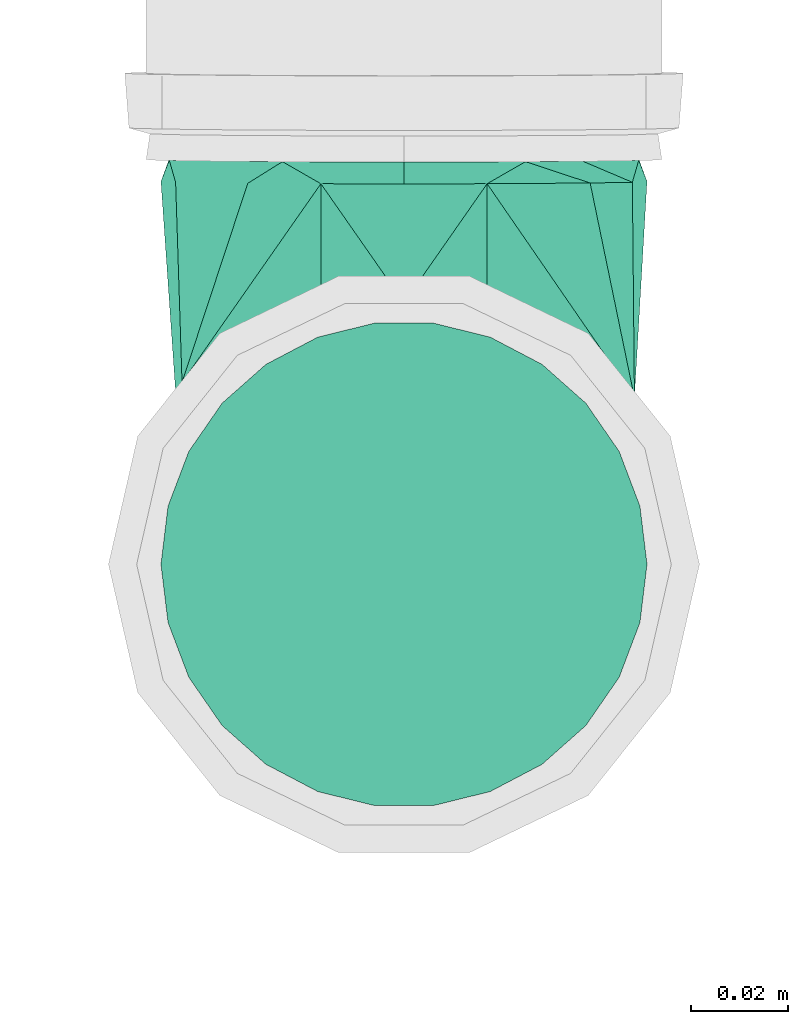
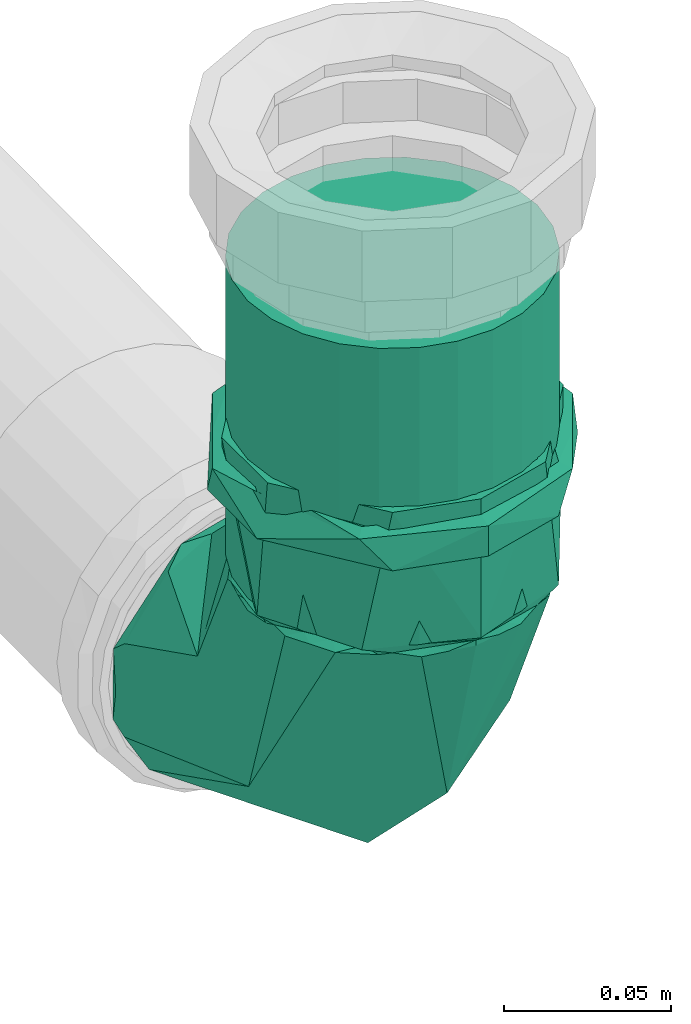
# One storey, part 211 of 589: 1 flow fitting, 1 flow segment.
"""IFC2X3 building model written with IfcOpenShell, lengths in millimetres."""

from ifc_helpers import new_model, entity, si_unit, converted_unit, derived_unit, direction, frame, frame_2d, origin, place, context, subcontext, project, spatial, circle, extrude, faceted_brep, source, transform, mapped, material, type_object, type_shapes, element, save


model = new_model("IFC2X3")

# Units and contexts
model_context = context("Model", 3, precision=0.01, world=origin(), true_north=direction((6.123031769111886e-17, 1.0)))
body_context = subcontext(model_context, "Body", "Model", "MODEL_VIEW")
ifc_project = project(units=[si_unit("LENGTHUNIT", "METRE", prefix="MILLI"), si_unit("AREAUNIT", "SQUARE_METRE"), si_unit("VOLUMEUNIT", "CUBIC_METRE"), converted_unit("PLANEANGLEUNIT", "DEGREE", entity("IfcRatioMeasure", 0.017453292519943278), si_unit("PLANEANGLEUNIT", "RADIAN"), dimensions=[0, 0, 0, 0, 0, 0, 0]), si_unit("MASSUNIT", "GRAM", prefix="KILO"), derived_unit("MASSDENSITYUNIT", [(si_unit("MASSUNIT", "GRAM", prefix="KILO"), 1), (si_unit("LENGTHUNIT", "METRE"), -3)]), derived_unit("IONCONCENTRATIONUNIT", [(si_unit("MASSUNIT", "GRAM", prefix="KILO"), 1), (si_unit("LENGTHUNIT", "METRE"), -3)]), derived_unit("MOMENTOFINERTIAUNIT", [(si_unit("LENGTHUNIT", "METRE"), 4)]), si_unit("TIMEUNIT", "SECOND"), si_unit("FREQUENCYUNIT", "HERTZ"), si_unit("THERMODYNAMICTEMPERATUREUNIT", "DEGREE_CELSIUS"), derived_unit("THERMALTRANSMITTANCEUNIT", [(si_unit("MASSUNIT", "GRAM", prefix="KILO"), 1), (si_unit("THERMODYNAMICTEMPERATUREUNIT", "KELVIN"), -1), (si_unit("TIMEUNIT", "SECOND"), -3)]), derived_unit("THERMALCONDUCTANCEUNIT", [(si_unit("MASSUNIT", "GRAM", prefix="KILO"), 1), (si_unit("THERMODYNAMICTEMPERATUREUNIT", "KELVIN"), -1), (si_unit("TIMEUNIT", "SECOND"), -3), (si_unit("LENGTHUNIT", "METRE"), 1)]), derived_unit("VOLUMETRICFLOWRATEUNIT", [(si_unit("LENGTHUNIT", "METRE"), 3), (si_unit("TIMEUNIT", "SECOND"), -1)]), derived_unit("MASSFLOWRATEUNIT", [(si_unit("MASSUNIT", "GRAM", prefix="KILO"), 1), (si_unit("TIMEUNIT", "SECOND"), -1)]), derived_unit("ROTATIONALFREQUENCYUNIT", [(si_unit("TIMEUNIT", "SECOND"), -1)]), si_unit("ELECTRICCURRENTUNIT", "AMPERE"), si_unit("ELECTRICVOLTAGEUNIT", "VOLT"), si_unit("POWERUNIT", "WATT"), si_unit("FORCEUNIT", "NEWTON", prefix="KILO"), si_unit("ILLUMINANCEUNIT", "LUX"), si_unit("LUMINOUSFLUXUNIT", "LUMEN"), si_unit("LUMINOUSINTENSITYUNIT", "CANDELA"), derived_unit("USERDEFINED", [(si_unit("MASSUNIT", "GRAM", prefix="KILO"), -1), (si_unit("LENGTHUNIT", "METRE"), -2), (si_unit("TIMEUNIT", "SECOND"), 3), (si_unit("LUMINOUSFLUXUNIT", "LUMEN"), 1)]), derived_unit("USERDEFINED", [(si_unit("MASSUNIT", "GRAM", prefix="KILO"), 1), (si_unit("TIMEUNIT", "SECOND"), -3), (si_unit("LENGTHUNIT", "METRE"), 3), (si_unit("ELECTRICCURRENTUNIT", "AMPERE"), -2)]), derived_unit("SOUNDPOWERUNIT", [(si_unit("MASSUNIT", "GRAM", prefix="KILO"), 1), (si_unit("TIMEUNIT", "SECOND"), -3), (si_unit("LENGTHUNIT", "METRE"), 2)]), derived_unit("SOUNDPRESSUREUNIT", [(si_unit("MASSUNIT", "GRAM", prefix="KILO"), 1), (si_unit("LENGTHUNIT", "METRE"), -1), (si_unit("TIMEUNIT", "SECOND"), -2)]), derived_unit("LINEARVELOCITYUNIT", [(si_unit("LENGTHUNIT", "METRE"), 1), (si_unit("TIMEUNIT", "SECOND"), -1)]), si_unit("PRESSUREUNIT", "PASCAL"), derived_unit("USERDEFINED", [(si_unit("MASSUNIT", "GRAM", prefix="KILO"), 1), (si_unit("LENGTHUNIT", "METRE"), -2), (si_unit("TIMEUNIT", "SECOND"), -2)]), derived_unit("LINEARFORCEUNIT", [(si_unit("MASSUNIT", "GRAM", prefix="KILO"), 1), (si_unit("TIMEUNIT", "SECOND"), -2)]), derived_unit("PLANARFORCEUNIT", [(si_unit("MASSUNIT", "GRAM", prefix="KILO"), 1), (si_unit("LENGTHUNIT", "METRE"), -1), (si_unit("TIMEUNIT", "SECOND"), -2)]), derived_unit("SPECIFICHEATCAPACITYUNIT", [(si_unit("THERMODYNAMICTEMPERATUREUNIT", "KELVIN"), -1), (si_unit("LENGTHUNIT", "METRE"), 2), (si_unit("TIMEUNIT", "SECOND"), -2)]), derived_unit("HEATINGVALUEUNIT", [(si_unit("LENGTHUNIT", "METRE"), 2), (si_unit("TIMEUNIT", "SECOND"), -2)]), derived_unit("VAPORPERMEABILITYUNIT", [(si_unit("LENGTHUNIT", "METRE"), -1), (si_unit("TIMEUNIT", "SECOND"), 1)]), derived_unit("DYNAMICVISCOSITYUNIT", [(si_unit("MASSUNIT", "GRAM", prefix="KILO"), 1), (si_unit("TIMEUNIT", "SECOND"), -1), (si_unit("LENGTHUNIT", "METRE"), -1)]), derived_unit("THERMALEXPANSIONCOEFFICIENTUNIT", [(si_unit("THERMODYNAMICTEMPERATUREUNIT", "KELVIN"), -1)]), derived_unit("MODULUSOFELASTICITYUNIT", [(si_unit("MASSUNIT", "GRAM", prefix="KILO"), 1), (si_unit("LENGTHUNIT", "METRE"), -1), (si_unit("TIMEUNIT", "SECOND"), -2)]), derived_unit("ISOTHERMALMOISTURECAPACITYUNIT", [(si_unit("LENGTHUNIT", "METRE"), 3), (si_unit("MASSUNIT", "GRAM", prefix="KILO"), -1)]), derived_unit("MOISTUREDIFFUSIVITYUNIT", [(si_unit("TIMEUNIT", "SECOND"), -1), (si_unit("LENGTHUNIT", "METRE"), 2)])], contexts=[model_context])

# Site, building, storey
site_placement = place(None, origin())
site = spatial("IfcSite", under=ifc_project, at=site_placement, Name="Default", CompositionType="ELEMENT")
building_placement = place(site_placement, origin())
building = spatial("IfcBuilding", under=site, at=building_placement, CompositionType="ELEMENT")
storey_placement = place(building_placement, frame((0.0, 0.0, 100.0)))
storey = spatial("IfcBuildingStorey", under=building, at=storey_placement, Name="TÉRREO", CompositionType="ELEMENT", Elevation=100.0)

# Flow segment
pipe_segment_type = type_object("IfcPipeSegmentType", Name="Tipos de tubos:PVC Esgoto Série Normal", PredefinedType="NOTDEFINED")
flow_segment_placement = place(storey_placement, origin())
element("IfcFlowSegment", 1, at=flow_segment_placement, inside=storey, type_object=pipe_segment_type, Name="Tipos de tubos:PVC Esgoto Série Normal", ObjectType="Tipos de tubos:PVC Esgoto Série Normal", context=body_context, shape_type="SweptSolid", body=[
    extrude(circle(Radius=50.0, at=frame_2d((0.0, -3.383959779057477e-14), x_axis=(1.0, 0.0))), frame((10615.99777647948, -135.7585524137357, -158.4176923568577)), (0.0, 0.0, 1.0), 108.41769235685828),
])

# Flow fitting
ifc_material = material(Name="PVC Branco")
pipe_fitting_type = type_object("IfcPipeFittingType", Name="PVC Esgoto_Curva 90° Curta:a. Série Normal", PredefinedType="NOTDEFINED", material=ifc_material)
shared_shape = source(origin(), body_context, "Body", "Brep", [
    faceted_brep([(-13.77310261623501, 83.150332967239, 48.29629131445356), (12.107507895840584, 83.40913907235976, 48.296291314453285), (27.28690791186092, 83.56093307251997, 36.64814565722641), (42.466307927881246, 83.71272707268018, 25.0), (49.16470282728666, 83.77971102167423, 0.0), (42.46630792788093, 83.71272707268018, -25.0), (27.286907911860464, 83.56093307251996, -36.64814565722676), (12.107507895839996, 83.40913907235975, -48.29629131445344), (-13.773102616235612, 83.150332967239, -48.2962913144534), (-28.95250263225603, 82.99853896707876, -36.64814565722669), (-44.131902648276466, 82.84674496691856, -25.0), (-50.83029754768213, 82.7797610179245, 0.0), (-44.131902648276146, 82.84674496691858, 25.0), (-28.952502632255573, 82.99853896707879, 36.64814565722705), (46.19447148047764, 79.24978371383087, 17.1010370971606), (16.31224781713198, 78.9509614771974, 46.9846691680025), (-17.887847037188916, 78.60896052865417, 46.98466916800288), (49.209700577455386, 79.27993600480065, 0.0), (37.5124666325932, 79.16296366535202, 32.139429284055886), (-32.92551224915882, 78.45858387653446, 38.30227334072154), (-0.7877996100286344, 78.77996100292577, 50.0), (-47.77007070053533, 78.31013829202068, 17.10103709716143), (-50.78529979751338, 78.2799860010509, 0.0), (-47.77007070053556, 78.31013829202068, -17.10103709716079), (-17.88784703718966, 78.60896052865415, -46.98466916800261), (16.312247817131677, 78.9509614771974, -46.98466916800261), (-39.08806585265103, 78.39695834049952, -32.1394292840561), (31.34991302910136, 79.1013381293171, -38.302273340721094), (-0.7877996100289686, 78.77996100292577, -50.0), (46.194471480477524, 79.24978371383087, -17.10103709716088), (-7.975140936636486, 7.895786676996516, 45.073651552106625), (-78.78389990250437, -17.100902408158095, 46.98466916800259), (-78.7838999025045, -27.701541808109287, 39.562049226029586), (-78.78389990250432, -38.302181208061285, 32.139429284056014), (-14.414764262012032, -32.63731005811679, 0.0), (-78.78389990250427, -46.984620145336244, 17.101037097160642), (-78.78389990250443, -48.49231007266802, 8.55051854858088), (-78.78389990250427, -50.0, 0.0), (-78.78389990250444, -42.64340067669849, 24.620233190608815), (-78.78389990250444, 0.0, 50.0), (-78.78389990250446, -8.550451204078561, 48.492334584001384), (32.49153787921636, 14.740400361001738, 0.0), (-34.6369786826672, 34.29234046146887, 47.412359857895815), (-78.78389990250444, 17.100902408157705, 46.98466916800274), (-78.78389990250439, 8.550451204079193, 48.49233458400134), (-78.78389990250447, 32.13931948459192, 38.302273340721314), (-78.78389990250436, 24.620110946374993, 42.64347125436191), (-78.78389990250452, 46.98462014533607, 17.101037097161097), (-78.78389990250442, 39.56196981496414, 27.701655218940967), (-64.70315148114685, 53.79808842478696, 0.0), (-78.78389990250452, 50.0, 0.0), (-78.78389990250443, 48.492310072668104, 8.550518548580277), (-37.82579928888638, 37.449427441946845, -45.66519222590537), (-78.78389990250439, 0.0, -50.0), (-78.78389990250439, 8.55045120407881, -48.49233458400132), (-78.78389990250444, 17.10090240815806, -46.984669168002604), (-7.975138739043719, 7.895784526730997, -45.07365007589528), (-78.78389990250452, 46.98462014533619, -17.101037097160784), (-78.78389990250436, 27.701541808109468, -39.562049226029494), (-78.7838999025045, 38.30218120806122, -32.139429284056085), (-78.78389990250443, -48.492310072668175, -8.550518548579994), (-78.78389990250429, -46.984620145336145, -17.1010370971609), (-78.78389990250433, -32.13931948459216, -38.302273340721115), (-78.7838999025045, -24.620110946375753, -42.6434712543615), (-78.78389990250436, -17.100902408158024, -46.98466916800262), (-78.78389990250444, -39.56196981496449, -27.70165521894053), (-78.78389990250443, 48.49231007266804, -8.550518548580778), (-78.78389990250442, 42.64340067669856, -24.620233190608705), (-78.78389990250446, -8.550451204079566, -48.49233458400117), (-80.78389990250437, 50.0, 0.0), (-80.78389990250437, 46.65063509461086, -12.500000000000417), (-80.78389990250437, 43.30127018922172, -25.0), (-80.78389990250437, 35.711190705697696, -30.82407282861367), (-80.78389990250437, 28.121111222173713, -36.64814565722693), (-80.78389990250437, 20.53103173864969, -42.47221848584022), (-80.78389990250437, 12.940952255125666, -48.29629131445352), (-80.78389990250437, 0.0, -48.29629131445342), (-80.78389990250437, -12.940952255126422, -48.29629131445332), (-80.78389990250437, -20.531031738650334, -42.47221848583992), (-80.78389990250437, -28.121111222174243, -36.64814565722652), (-80.78389990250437, -35.7111907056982, -30.824072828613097), (-80.78389990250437, -43.30127018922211, -25.0), (-80.78389990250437, -46.650635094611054, -12.499999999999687), (-80.78389990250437, -50.0, 0.0), (-80.78389990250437, -46.65063509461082, 12.500000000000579), (-80.78389990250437, -43.30127018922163, 25.0), (-80.78389990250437, -35.71119070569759, 30.82407282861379), (-80.78389990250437, -28.12111122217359, 36.648145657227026), (-80.78389990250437, -20.531031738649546, 42.47221848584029), (-80.78389990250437, -12.940952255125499, 48.29629131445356), (-80.78389990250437, 0.0, 48.29629131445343), (-80.78389990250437, 12.940952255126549, 48.296291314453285), (-80.78389990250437, 20.531031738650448, 42.47221848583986), (-80.78389990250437, 28.121111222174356, 36.648145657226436), (-80.78389990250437, 35.711190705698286, 30.824072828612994), (-80.78389990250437, 43.30127018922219, 25.0), (-80.78389990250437, 46.65063509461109, 12.499999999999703)], [[[0, 1, 2, 3, 4, 5, 6, 7, 8, 9, 10, 11, 12, 13]], [[14, 4, 3]], [[1, 15, 2]], [[13, 16, 0]], [[17, 4, 14]], [[18, 14, 3]], [[2, 15, 18]], [[13, 12, 19]], [[1, 20, 15]], [[18, 3, 2]], [[12, 21, 19]], [[12, 11, 21]], [[22, 21, 11]], [[20, 0, 16]], [[16, 13, 19]], [[0, 20, 1]], [[23, 11, 10]], [[8, 24, 9]], [[6, 25, 7]], [[22, 11, 23]], [[26, 23, 10]], [[9, 24, 26]], [[6, 5, 27]], [[8, 28, 24]], [[26, 10, 9]], [[5, 29, 27]], [[5, 4, 29]], [[17, 29, 4]], [[28, 7, 25]], [[25, 6, 27]], [[7, 28, 8]], [[30, 31, 32, 33]], [[34, 35, 36, 37]], [[34, 30, 33]], [[34, 33, 38, 35]], [[30, 39, 40, 31]], [[41, 30, 34]], [[42, 43, 44, 39]], [[20, 42, 30]], [[30, 42, 39]], [[42, 45, 46, 43]], [[42, 47, 48, 45]], [[49, 50, 51, 47]], [[20, 30, 15]], [[20, 16, 42]], [[30, 18, 15]], [[14, 18, 41]], [[17, 14, 41]], [[49, 21, 22]], [[49, 47, 21]], [[47, 42, 21]], [[42, 19, 21]], [[42, 16, 19]], [[30, 41, 18]], [[52, 53, 54, 55]], [[34, 56, 41]], [[52, 24, 28]], [[52, 57, 23]], [[52, 55, 58, 59]], [[56, 53, 52]], [[34, 37, 60, 61]], [[56, 62, 63, 64]], [[62, 56, 34]], [[34, 61, 65, 62]], [[49, 57, 66, 50]], [[49, 22, 23]], [[27, 56, 25]], [[52, 59, 67, 57]], [[52, 26, 24]], [[52, 23, 26]], [[52, 28, 56]], [[56, 64, 68, 53]], [[28, 25, 56]], [[56, 27, 41]], [[29, 17, 41]], [[29, 41, 27]], [[49, 23, 57]], [[69, 70, 71, 72, 73, 74, 75, 76, 77, 78, 79, 80, 81, 82, 83, 84, 85, 86, 87, 88, 89, 90, 91, 92, 93, 94, 95, 96]], [[51, 50, 69]], [[31, 89, 88]], [[92, 43, 46]], [[46, 45, 93]], [[31, 88, 32]], [[93, 92, 46]], [[96, 95, 47]], [[94, 93, 45]], [[85, 84, 35]], [[69, 96, 51]], [[90, 44, 91]], [[89, 40, 90]], [[33, 87, 86, 85]], [[85, 35, 38, 33]], [[89, 31, 40]], [[83, 36, 84]], [[45, 48, 94]], [[40, 39, 90]], [[44, 43, 91]], [[32, 88, 87]], [[48, 47, 95]], [[87, 33, 32]], [[44, 90, 39]], [[96, 47, 51]], [[92, 91, 43]], [[48, 95, 94]], [[36, 83, 37]], [[36, 35, 84]], [[60, 37, 83]], [[55, 75, 74]], [[78, 64, 63]], [[63, 62, 79]], [[55, 74, 58]], [[79, 78, 63]], [[82, 81, 61]], [[80, 79, 62]], [[71, 70, 57]], [[83, 82, 60]], [[76, 68, 77]], [[75, 54, 76]], [[59, 73, 72, 71]], [[71, 57, 67, 59]], [[75, 55, 54]], [[69, 66, 70]], [[62, 65, 80]], [[54, 53, 76]], [[68, 64, 77]], [[58, 74, 73]], [[65, 61, 81]], [[73, 59, 58]], [[68, 76, 53]], [[82, 61, 60]], [[78, 77, 64]], [[65, 81, 80]], [[66, 69, 50]], [[66, 57, 70]]]),
    faceted_brep([(-115.78389990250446, 13.678586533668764, -51.04917991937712), (-115.78389990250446, -13.678586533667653, -51.04917991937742), (-115.78389990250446, -14.83033128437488, -55.3475498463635), (-115.78389990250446, 14.830331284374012, -55.347549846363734), (-115.78389990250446, 45.76944259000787, -26.42499999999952), (-115.78389990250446, -49.62325563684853, -28.64999999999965), (-115.78389990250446, -45.769442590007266, -26.425000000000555), (-115.78389990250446, -52.85000000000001, 0.0), (-115.78389990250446, -57.300000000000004, 0.0), (-115.78389990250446, -45.76944259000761, 26.424999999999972), (-115.78389990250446, -49.62325563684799, 28.6500000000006), (-115.78389990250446, -13.67858653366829, 51.04917991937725), (-115.78389990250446, -14.830331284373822, 55.34754984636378), (-115.78389990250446, 13.678586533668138, 51.049179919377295), (-115.78389990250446, 14.830331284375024, 55.34754984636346), (-115.78389990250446, 45.76944259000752, 26.42500000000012), (-115.78389990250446, 49.62325563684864, 28.64999999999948), (-115.78389990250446, 57.300000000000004, 0.0), (-115.78389990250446, 52.85000000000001, 0.0), (-115.78389990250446, 49.62325563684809, -28.65000000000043), (-126.78389990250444, 57.300000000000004, 0.0), (-126.78389990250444, 50.59641416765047, 18.416769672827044), (-126.78389990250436, 43.89282833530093, 36.833539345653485), (-126.78389990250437, 16.96848634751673, 46.63099896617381), (-126.78389990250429, -9.955855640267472, 56.42845858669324), (-126.78389990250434, -26.927757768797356, 46.62692777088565), (-126.78389990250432, -43.89965989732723, 36.82539695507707), (-126.78389990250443, -51.65442122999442, 15.514582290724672), (-126.78389990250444, -57.300000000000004, 0.0), (-126.78389990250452, -51.654421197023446, -15.514582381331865), (-126.78389990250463, -43.89965989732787, -36.825396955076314), (-126.78389990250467, -16.97713572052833, -46.627850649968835), (-126.7838999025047, 9.945388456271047, -56.43030434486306), (-126.78389990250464, 26.91910839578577, -46.63192184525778), (-126.7838999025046, 43.89282833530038, -36.83353934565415), (-126.78389990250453, 50.59641416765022, -18.416769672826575), (-126.78389990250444, 52.85000000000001, 0.0), (-128.2838999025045, 52.85000000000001, 0.0), (-126.78389990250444, 51.07986064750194, -6.606250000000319), (-126.78389990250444, 49.309721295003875, -13.212500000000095), (-126.78389990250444, 47.53958194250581, -19.818749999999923), (-126.78389990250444, 45.769442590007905, -26.42499999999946), (-126.78389990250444, 37.74672857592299, -32.581044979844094), (-126.78389990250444, 29.72401456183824, -38.73708995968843), (-126.78389990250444, 21.70130054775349, -44.89313493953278), (-126.78389990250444, 13.678586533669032, -51.049179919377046), (-126.78389990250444, 6.83929326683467, -51.0491799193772), (-126.78389990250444, 0.0, -51.04917991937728), (-126.78389990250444, -6.839293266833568, -51.049179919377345), (-126.78389990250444, -13.678586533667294, -51.049179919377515), (-126.78389990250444, -21.70130054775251, -44.89313493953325), (-126.78389990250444, -29.724014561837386, -38.73708995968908), (-126.78389990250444, -37.74672857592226, -32.581044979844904), (-126.78389990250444, -45.76944259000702, -26.425000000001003), (-126.78389990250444, -47.53958194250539, -19.818750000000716), (-126.78389990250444, -49.3097212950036, -13.212500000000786), (-126.78389990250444, -51.0798606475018, -6.606250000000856), (-128.2838999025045, -52.85000000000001, 0.0), (-126.78389990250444, -52.85000000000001, 0.0), (-126.78389990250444, -51.07986064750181, 6.606250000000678), (-126.78389990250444, -49.30972129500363, 13.212500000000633), (-126.78389990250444, -47.53958194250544, 19.81875000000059), (-126.78389990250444, -45.769442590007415, 26.425000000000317), (-126.78389990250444, -37.74672857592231, 32.58104497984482), (-126.78389990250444, -29.724014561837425, 38.73708995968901), (-126.78389990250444, -21.70130054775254, 44.893134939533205), (-126.78389990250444, -17.689943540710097, 47.9711574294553), (-126.78389990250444, -13.67858653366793, 51.049179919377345), (-126.78389990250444, -6.8392932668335, 51.04917991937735), (-126.78389990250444, 0.0, 51.04917991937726), (-126.78389990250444, 6.839293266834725, 51.04917991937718), (-126.78389990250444, 13.67858653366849, 51.049179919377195), (-126.78389990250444, 21.701300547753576, 44.893134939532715), (-126.78389990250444, 29.724014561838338, 38.73708995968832), (-126.78389990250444, 37.7467285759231, 32.58104497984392), (-126.78389990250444, 45.769442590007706, 26.424999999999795), (-126.78389990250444, 47.539581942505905, 19.818749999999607), (-126.78389990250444, 49.30972129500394, 13.212499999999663), (-126.78389990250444, 51.079860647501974, 6.606249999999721), (-128.28389990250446, -49.75936154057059, 8.49223617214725), (-128.28389990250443, -46.668723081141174, 16.984472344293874), (-128.28389990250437, -21.863819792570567, 40.74836470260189), (-128.28389990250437, -15.655944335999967, 43.00817137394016), (-128.28389990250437, -28.07169524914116, 38.488558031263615), (-128.2838999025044, 40.48487812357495, 33.9720052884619), (-128.2838999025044, 32.6575479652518, 38.490853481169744), (-128.28389990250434, 9.175557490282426, 52.04739805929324), (-128.2838999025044, 24.830217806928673, 43.00970167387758), (-128.28389990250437, 17.002887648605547, 47.528549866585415), (-128.2838999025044, -43.578084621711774, 25.476708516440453), (-128.2838999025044, -40.48744616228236, 33.96894468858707), (-128.2838999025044, -34.27957070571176, 36.22875135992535), (-128.28389990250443, 46.667439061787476, 16.986002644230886), (-128.28389990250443, 43.57615859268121, 25.479003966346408), (-128.28389990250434, 2.967682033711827, 49.78759138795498), (-127.4733463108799, 42.95894728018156, 30.783946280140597), (-128.28389990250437, -9.44806887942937, 45.26797804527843), (-128.2838999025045, 49.75871953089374, 8.49300132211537), (-128.2838999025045, 47.64176169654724, 14.30914316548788), (-128.28389990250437, -3.2401934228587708, 47.5277847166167), (-128.28389990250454, 46.667439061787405, -16.986002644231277), (-128.28389990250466, 3.2366004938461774, -47.52802952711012), (-128.28389990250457, 43.576158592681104, -25.479003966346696), (-128.2838999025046, 40.4848781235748, -33.972005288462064), (-128.2838999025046, 34.27683185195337, -36.231342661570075), (-128.28389990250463, -17.006480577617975, -47.52726437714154), (-128.28389990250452, 49.75871953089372, -8.493001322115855), (-128.28389990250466, -9.179492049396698, -52.04670427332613), (-128.28389990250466, -2.971445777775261, -49.787366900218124), (-128.28389990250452, -46.66872308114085, -16.984472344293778), (-128.28389990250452, -43.578084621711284, -25.476708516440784), (-128.2838999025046, 28.068785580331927, -38.490680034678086), (-128.28389990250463, 21.86073930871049, -40.75001740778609), (-128.28389990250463, 15.652693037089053, -43.00935478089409), (-128.28389990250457, -32.66045763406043, -38.48838458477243), (-128.2838999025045, -49.75936154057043, -8.492236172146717), (-128.28389990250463, 9.444646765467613, -45.268692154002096), (-128.28389990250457, -40.48744616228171, -33.96894468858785), (-128.2838999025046, -24.833469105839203, -43.007824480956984)], [[[0, 1, 2]], [[2, 3, 0]], [[4, 0, 3]], [[5, 2, 1]], [[1, 6, 5]], [[6, 7, 5]], [[8, 5, 7]], [[8, 7, 9]], [[10, 8, 9]], [[9, 11, 10]], [[11, 12, 10]], [[13, 12, 11]], [[12, 13, 14]], [[13, 15, 14]], [[16, 14, 15]], [[16, 15, 17]], [[17, 15, 18]], [[18, 4, 19]], [[17, 18, 19]], [[3, 19, 4]], [[16, 20, 21, 22]], [[20, 16, 17]], [[16, 22, 14]], [[14, 22, 23, 24]], [[12, 24, 25, 26]], [[10, 26, 27, 28]], [[26, 10, 12]], [[10, 28, 8]], [[24, 12, 14]], [[5, 28, 29, 30]], [[28, 5, 8]], [[5, 30, 2]], [[2, 30, 31, 32]], [[3, 32, 33, 34]], [[19, 34, 35, 20]], [[34, 19, 3]], [[19, 20, 17]], [[32, 3, 2]], [[4, 18, 36, 37, 38, 39, 40, 41]], [[0, 4, 41, 42, 43, 44, 45]], [[0, 45, 46, 47, 48, 49, 1]], [[6, 1, 49, 50, 51, 52, 53]], [[7, 6, 53, 54, 55, 56, 57, 58]], [[9, 7, 58, 57, 59, 60, 61, 62]], [[11, 9, 62, 63, 64, 65, 66, 67]], [[11, 67, 68, 69, 70, 71, 13]], [[15, 13, 71, 72, 73, 74, 75]], [[18, 15, 75, 76, 77, 78, 37, 36]], [[79, 80, 60]], [[81, 82, 65, 83]], [[84, 74, 85]], [[73, 85, 74]], [[71, 70, 86]], [[87, 72, 88]], [[89, 90, 62]], [[90, 91, 63]], [[66, 65, 82, 67]], [[92, 76, 93]], [[59, 79, 60]], [[83, 65, 64]], [[61, 89, 62]], [[63, 91, 64]], [[71, 88, 72]], [[86, 70, 94]], [[69, 94, 70]], [[75, 95, 93]], [[96, 67, 82]], [[78, 97, 37]], [[84, 93, 95]], [[77, 92, 98, 97]], [[73, 87, 85]], [[74, 95, 75]], [[95, 74, 84]], [[73, 72, 87]], [[71, 86, 88]], [[63, 62, 90]], [[61, 80, 89]], [[91, 83, 64]], [[75, 93, 76]], [[92, 77, 76]], [[79, 59, 57]], [[61, 60, 80]], [[99, 94, 69]], [[99, 68, 96]], [[78, 77, 97]], [[67, 96, 68]], [[99, 69, 68]], [[40, 39, 100]], [[47, 46, 101]], [[102, 103, 41]], [[43, 42, 104]], [[49, 105, 50]], [[106, 100, 39]], [[42, 103, 104]], [[107, 48, 108]], [[109, 54, 110]], [[106, 38, 37]], [[111, 112, 113, 44]], [[40, 102, 41]], [[42, 41, 103]], [[51, 114, 52]], [[56, 115, 57]], [[113, 116, 45]], [[101, 46, 116]], [[45, 116, 46]], [[44, 43, 111]], [[113, 45, 44]], [[53, 117, 110]], [[55, 109, 115]], [[117, 53, 52]], [[100, 102, 40]], [[118, 50, 105]], [[118, 51, 50]], [[105, 49, 107]], [[53, 110, 54]], [[109, 55, 54]], [[117, 52, 114]], [[51, 118, 114]], [[107, 49, 48]], [[47, 108, 48]], [[56, 55, 115]], [[104, 111, 43]], [[106, 39, 38]], [[47, 101, 108]], [[30, 109, 110, 117]], [[29, 57, 115, 109]], [[107, 32, 31]], [[31, 118, 105, 107]], [[57, 29, 28]], [[30, 117, 114, 118]], [[20, 100, 106, 37]], [[33, 113, 112, 111, 104, 103]], [[30, 118, 31]], [[32, 107, 108, 101, 116, 113]], [[20, 35, 100]], [[30, 29, 109]], [[34, 103, 35]], [[113, 33, 32]], [[34, 33, 103]], [[35, 103, 102, 100]], [[21, 84, 22]], [[20, 98, 21]], [[23, 87, 88, 86]], [[22, 84, 85, 87]], [[20, 37, 97, 98]], [[22, 87, 23]], [[27, 80, 79, 57]], [[24, 86, 94, 99, 96, 82]], [[86, 24, 23]], [[82, 25, 24]], [[26, 90, 89, 80]], [[21, 98, 92, 93, 84]], [[26, 80, 27]], [[90, 26, 25]], [[25, 82, 81, 83, 91, 90]], [[57, 28, 27]]]),
    faceted_brep([(-133.9838999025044, -13.678586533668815, -51.04917991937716), (-133.9838999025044, -12.940952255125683, -48.29629131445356), (-133.9838999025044, 12.940952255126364, -48.29629131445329), (-133.9838999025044, -45.76944259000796, -26.424999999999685), (-133.9838999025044, 13.678586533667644, -51.04917991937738), (-133.9838999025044, -43.301270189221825, -25.0), (-133.9838999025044, -50.0, 0.0), (-133.9838999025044, -52.850000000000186, 0.0), (-133.9838999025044, -43.30127018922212, 25.0), (-133.9838999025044, -45.76944259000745, 26.425000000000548), (-133.9838999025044, -12.940952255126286, 48.29629131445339), (-133.9838999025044, -13.678586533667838, 51.049179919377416), (-133.9838999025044, 12.940952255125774, 48.29629131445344), (-133.9838999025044, 13.678586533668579, 51.04917991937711), (-133.9838999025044, 43.30127018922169, 25.0), (-133.9838999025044, 45.76944259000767, 26.42499999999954), (-133.9838999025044, 52.84999999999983, 0.0), (-133.9838999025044, 50.0, 0.0), (-133.9838999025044, 45.76944259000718, -26.425000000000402), (-133.9838999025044, 43.30127018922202, -25.0), (-83.28389990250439, 52.849999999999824, 0.0), (-83.28389990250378, 40.488967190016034, 33.967131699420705), (-83.28389990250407, 46.66948359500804, 16.983565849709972), (-83.28389990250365, 9.181156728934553, 52.04641064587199), (-83.2838999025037, 24.835061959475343, 43.00677117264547), (-83.283899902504, -40.48444349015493, 33.972523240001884), (-83.28389990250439, -52.85000000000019, 0.0), (-83.28389990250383, -15.651643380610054, 43.00946694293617), (-83.2838999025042, -46.667221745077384, 16.986261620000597), (-83.28389990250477, -40.48444349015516, -33.972523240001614), (-83.28389990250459, -46.6672217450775, -16.98626162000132), (-83.283899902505, -9.174225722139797, -52.04763282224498), (-83.2838999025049, -24.829334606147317, -43.010078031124), (-83.28389990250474, 40.488967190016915, -33.96713169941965), (-83.28389990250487, 15.657370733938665, -43.00738226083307), (-83.28389990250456, 46.6694835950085, -16.98356584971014), (-83.28389990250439, -43.301270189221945, 25.0), (-83.28389990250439, -12.940952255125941, 48.2962913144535), (-83.28389990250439, 12.940952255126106, 48.29629131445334), (-83.28389990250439, 43.30127018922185, 25.0), (-83.28389990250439, 50.0, 0.0), (-83.28389990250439, 43.30127018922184, -25.0), (-83.28389990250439, 12.940952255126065, -48.296291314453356), (-83.28389990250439, -12.940952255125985, -48.29629131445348), (-83.28389990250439, -43.301270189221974, -25.0), (-83.28389990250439, -50.0, 0.0), (-80.78389990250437, 12.940952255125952, 48.29629131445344), (-80.78389990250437, -12.940952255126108, 48.29629131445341), (-80.78389990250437, -28.121111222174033, 36.64814565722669), (-80.78389990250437, -43.30127018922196, 25.0), (-80.78389990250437, -50.0, 0.0), (-80.78389990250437, -43.30127018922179, -25.0), (-80.78389990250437, -28.1211112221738, -36.64814565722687), (-80.78389990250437, -12.94095225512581, -48.29629131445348), (-80.78389990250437, 12.940952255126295, -48.29629131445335), (-80.78389990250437, 28.121111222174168, -36.64814565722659), (-80.78389990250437, 43.301270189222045, -25.0), (-80.78389990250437, 50.0, 0.0), (-80.78389990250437, 43.301270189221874, 25.0), (-80.78389990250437, 28.121111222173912, 36.648145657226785)], [[[0, 1, 2]], [[1, 0, 3]], [[2, 4, 0]], [[3, 5, 1]], [[3, 6, 5]], [[6, 3, 7]], [[8, 6, 7]], [[8, 7, 9]], [[9, 10, 8]], [[9, 11, 10]], [[10, 11, 12]], [[13, 12, 11]], [[13, 14, 12]], [[14, 13, 15]], [[16, 14, 15]], [[17, 14, 16]], [[18, 17, 16]], [[18, 19, 17]], [[19, 18, 4]], [[4, 2, 19]], [[16, 15, 20]], [[15, 21, 22, 20]], [[21, 15, 13]], [[13, 23, 24, 21]], [[25, 11, 9]], [[26, 9, 7]], [[11, 25, 27, 23]], [[9, 26, 28, 25]], [[11, 23, 13]], [[7, 3, 26]], [[3, 29, 30, 26]], [[29, 3, 0]], [[0, 31, 32, 29]], [[33, 4, 18]], [[20, 18, 16]], [[4, 33, 34, 31]], [[18, 20, 35, 33]], [[4, 31, 0]], [[36, 37, 38, 39, 40, 41, 42, 43, 44, 45]], [[46, 47, 48, 49, 50, 51, 52, 53, 54, 55, 56, 57, 58, 59]], [[34, 55, 54]], [[35, 57, 56]], [[35, 20, 57]], [[56, 33, 35]], [[33, 55, 34]], [[32, 31, 53]], [[30, 29, 51]], [[52, 29, 32]], [[33, 56, 55]], [[30, 50, 26]], [[50, 30, 51]], [[54, 31, 34]], [[52, 51, 29]], [[53, 31, 54]], [[53, 52, 32]], [[27, 48, 47]], [[28, 50, 49]], [[28, 26, 50]], [[49, 25, 28]], [[25, 48, 27]], [[24, 23, 46]], [[22, 21, 58]], [[59, 21, 24]], [[25, 49, 48]], [[22, 57, 20]], [[57, 22, 58]], [[47, 23, 27]], [[59, 58, 21]], [[46, 23, 47]], [[46, 59, 24]], [[41, 40, 17, 19]], [[42, 41, 19, 2]], [[2, 1, 43, 42]], [[44, 43, 1, 5]], [[45, 44, 5, 6]], [[36, 45, 6, 8]], [[37, 36, 8, 10]], [[10, 12, 38, 37]], [[39, 38, 12, 14]], [[40, 39, 14, 17]]]),
])
type_shapes(pipe_fitting_type, [shared_shape])
flow_fitting_placement = place(storey_placement, frame((10615.99777647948, -135.7585524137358, -241.70159225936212), z_axis=(1.0, 0.0, 0.0), x_axis=(0.0, 0.0, -1.0)))
element("IfcFlowFitting", 2, at=flow_fitting_placement, inside=storey, type_object=pipe_fitting_type, material=ifc_material, Name="PVC Esgoto_Curva 90° Curta:a. Série Normal", ObjectType="PVC Esgoto_Curva 90° Curta:a. Série Normal", context=body_context, shape_type="MappedRepresentation", body=[
    mapped(shared_shape, transform((0.0, 0.0, 0.0), scale=1.0)),
])

save(model, "model.ifc")
